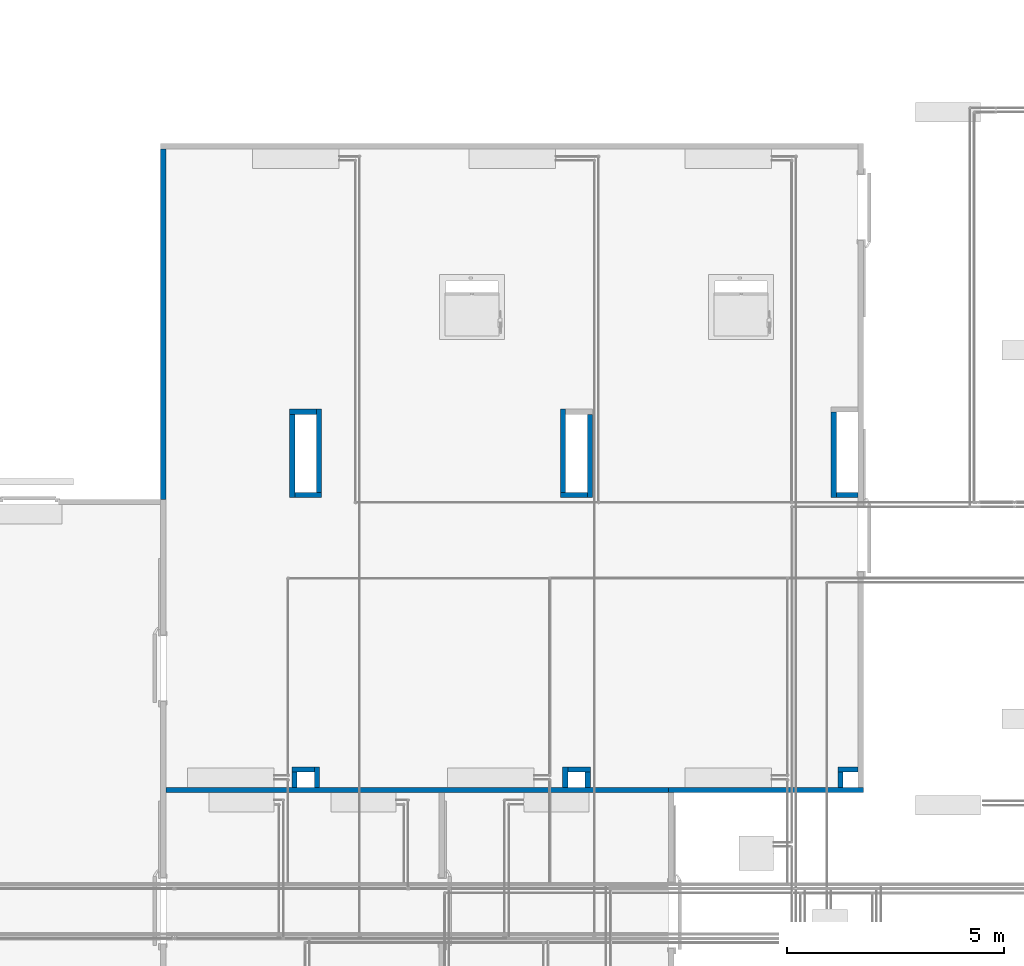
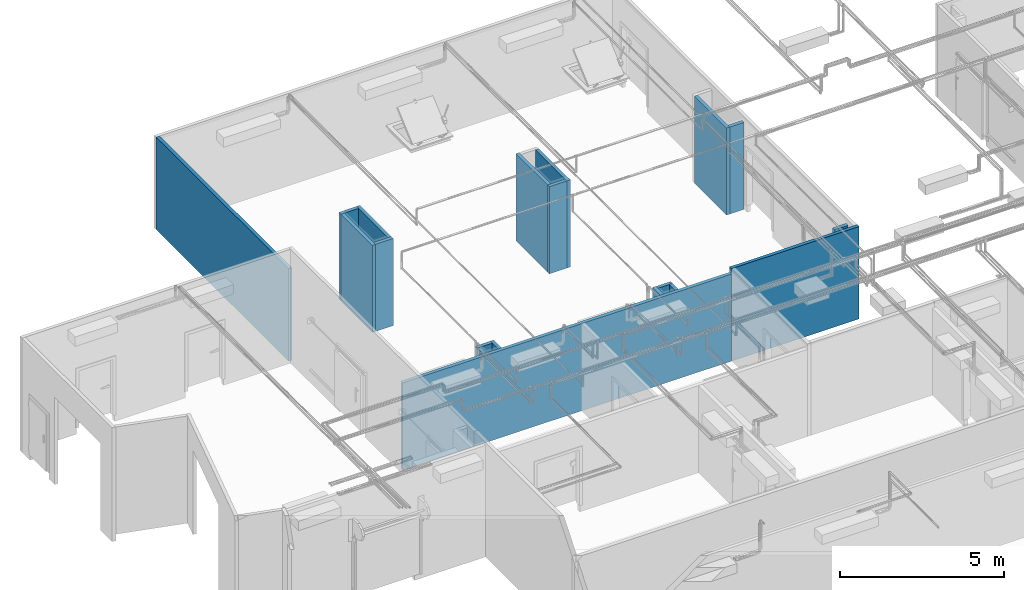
# One storey, part 27 of 652: 20 walls.
"""IFC2X3 building model written with IfcOpenShell, lengths in millimetres."""

from ifc_helpers import new_model, entity, si_unit, converted_unit, direction, frame, frame_2d, origin, place, context, subcontext, project, spatial, rectangle, extrude, material, layer, layer_set, layer_usage, type_object, element, save


model = new_model("IFC2X3")

# Units and contexts
model_context = context("Model", 3, precision=0.01, world=frame((0.0, 0.0, 308426.39999999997)), true_north=direction((6.123233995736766e-17, 1.0)))
plan_context = context("Plan", 3, precision=0.01, world=frame((0.0, 0.0, 308426.39999999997)), true_north=direction((6.123233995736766e-17, 1.0)))
body_context = subcontext(model_context, "Body", "Model", "MODEL_VIEW")
ifc_project = project(units=[si_unit("LENGTHUNIT", "METRE", prefix="MILLI"), si_unit("AREAUNIT", "SQUARE_METRE"), si_unit("VOLUMEUNIT", "CUBIC_METRE"), converted_unit("PLANEANGLEUNIT", "DEGREE", entity("IfcPlaneAngleMeasure", 0.017453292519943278), si_unit("PLANEANGLEUNIT", "RADIAN"), dimensions=[0, 0, 0, 0, 0, 0, 0])], contexts=[model_context, plan_context])

# Site, building, storey
site_placement = place(None, origin())
site = spatial("IfcSite", under=ifc_project, at=site_placement, Name="Default", CompositionType="ELEMENT")
building_placement = place(site_placement, origin())
building = spatial("IfcBuilding", under=site, at=building_placement, CompositionType="ELEMENT")
storey_placement = place(building_placement, frame((0.0, 0.0, 1730.6999999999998)))
storey = spatial("IfcBuildingStorey", under=building, at=storey_placement, Name="EG_Produktion_FFB", CompositionType="ELEMENT", Elevation=1730.6999999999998)

# Walls
ifc_material = material(Name="GPG_Paneelwand")
ifc_layer = layer(ifc_material, 120.0)
ifc_layer_set = layer_set([ifc_layer], Name="Basiswand:Kühlzellen Paneelwand 120")
ifc_layer_usage_1 = layer_usage(ifc_layer_set, "AXIS2", "NEGATIVE", 60.0)
wall_type = type_object("IfcWallType", Name="Basiswand:Kühlzellen Paneelwand 120", PredefinedType="STANDARD", material=ifc_layer_set)
wall_1_placement = place(storey_placement, frame((35375.0, 63277.90584055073, -250.0), z_axis=(0.0, 0.0, 1.0), x_axis=(-1.0, 0.0, 0.0)))
element("IfcWallStandardCase", 1, at=wall_1_placement, inside=storey, type_object=wall_type, material=ifc_layer_usage_1, Name="Basiswand:Kühlzellen Paneelwand 120", ObjectType="Basiswand:Kühlzellen Paneelwand 120", context=body_context, shape_type="SweptSolid", body=[
    extrude(rectangle(XDim=4494.9999999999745, YDim=120.00000000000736, at=frame_2d((2247.4999999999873, 4.725109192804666e-13), x_axis=(-1.0, 0.0))), origin(), (0.0, 0.0, 1.0), 3449.9999999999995),
])
ifc_layer_usage_2 = layer_usage(ifc_layer_set, "AXIS2", "NEGATIVE", 60.0)
wall_2_placement = place(storey_placement, frame((29060.0, 70030.0, -250.0), z_axis=(0.0, 0.0, 1.0), x_axis=(0.0, 1.0, 0.0)))
element("IfcWallStandardCase", 2, at=wall_2_placement, inside=storey, type_object=wall_type, material=ifc_layer_usage_2, Name="Basiswand:Kühlzellen Paneelwand 120", ObjectType="Basiswand:Kühlzellen Paneelwand 120", context=body_context, shape_type="SweptSolid", body=[
    extrude(rectangle(XDim=1919.999999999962, YDim=119.9999999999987, at=frame_2d((959.999999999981, 0.0), x_axis=(-1.0, 0.0))), origin(), (0.0, 0.0, 1.0), 3249.9999999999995),
])
ifc_layer_usage_3 = layer_usage(ifc_layer_set, "AXIS2", "NEGATIVE", 60.0)
wall_3_placement = place(storey_placement, frame((28380.0, 70090.0, -250.0)))
element("IfcWallStandardCase", 3, at=wall_3_placement, inside=storey, type_object=wall_type, material=ifc_layer_usage_3, Name="Basiswand:Kühlzellen Paneelwand 120", ObjectType="Basiswand:Kühlzellen Paneelwand 120", context=body_context, shape_type="SweptSolid", body=[
    extrude(rectangle(XDim=620.0000000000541, YDim=120.00000000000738, at=frame_2d((310.00000000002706, -5.790923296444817e-13), x_axis=(-1.0, 0.0))), origin(), (0.0, 0.0, 1.0), 3249.9999999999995),
])
ifc_layer_usage_4 = layer_usage(ifc_layer_set, "AXIS2", "NEGATIVE", 60.0)
wall_4_placement = place(storey_placement, frame((28440.0, 72070.0, -250.0), z_axis=(0.0, 0.0, 1.0), x_axis=(0.0, -1.0, 0.0)))
element("IfcWallStandardCase", 4, at=wall_4_placement, inside=storey, type_object=wall_type, material=ifc_layer_usage_4, Name="Basiswand:Kühlzellen Paneelwand 120", ObjectType="Basiswand:Kühlzellen Paneelwand 120", context=body_context, shape_type="SweptSolid", body=[
    extrude(rectangle(XDim=1919.9999999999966, YDim=119.99999999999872, at=frame_2d((959.9999999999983, 1.3002932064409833e-12), x_axis=(-1.0, 0.0))), origin(), (0.0, 0.0, 1.0), 3249.9999999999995),
])
ifc_layer_usage_5 = layer_usage(ifc_layer_set, "AXIS2", "NEGATIVE", 60.0)
wall_5_placement = place(storey_placement, frame((22130.0, 72010.0, -250.0)))
element("IfcWallStandardCase", 5, at=wall_5_placement, inside=storey, type_object=wall_type, material=ifc_layer_usage_5, Name="Basiswand:Kühlzellen Paneelwand 120", ObjectType="Basiswand:Kühlzellen Paneelwand 120", context=body_context, shape_type="SweptSolid", body=[
    extrude(rectangle(XDim=619.999999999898, YDim=120.00000000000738, at=frame_2d((309.999999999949, 0.0), x_axis=(-1.0, 0.0))), origin(), (0.0, 0.0, 1.0), 3249.9999999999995),
])
ifc_layer_usage_6 = layer_usage(ifc_layer_set, "AXIS2", "NEGATIVE", 60.0)
wall_6_placement = place(storey_placement, frame((22190.0, 70030.0, -250.0), z_axis=(0.0, 0.0, 1.0), x_axis=(0.0, 1.0, 0.0)))
element("IfcWallStandardCase", 6, at=wall_6_placement, inside=storey, type_object=wall_type, material=ifc_layer_usage_6, Name="Basiswand:Kühlzellen Paneelwand 120", ObjectType="Basiswand:Kühlzellen Paneelwand 120", context=body_context, shape_type="SweptSolid", body=[
    extrude(rectangle(XDim=1919.9999999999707, YDim=119.9999999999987, at=frame_2d((959.9999999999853, 0.0), x_axis=(-1.0, 0.0))), origin(), (0.0, 0.0, 1.0), 3249.9999999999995),
])
ifc_layer_usage_7 = layer_usage(ifc_layer_set, "AXIS2", "NEGATIVE", 60.0)
wall_7_placement = place(storey_placement, frame((22870.0, 70090.0, -250.0), z_axis=(0.0, 0.0, 1.0), x_axis=(-1.0, 0.0, 0.0)))
element("IfcWallStandardCase", 7, at=wall_7_placement, inside=storey, type_object=wall_type, material=ifc_layer_usage_7, Name="Basiswand:Kühlzellen Paneelwand 120", ObjectType="Basiswand:Kühlzellen Paneelwand 120", context=body_context, shape_type="SweptSolid", body=[
    extrude(rectangle(XDim=620.0000000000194, YDim=120.00000000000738, at=frame_2d((310.0000000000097, -1.865174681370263e-12), x_axis=(-1.0, 0.0))), origin(), (0.0, 0.0, 1.0), 3249.9999999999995),
])
ifc_layer_usage_8 = layer_usage(ifc_layer_set, "AXIS2", "NEGATIVE", 60.0)
wall_8_placement = place(storey_placement, frame((22810.0, 72070.0, -250.0), z_axis=(0.0, 0.0, 1.0), x_axis=(0.0, -1.0, 0.0)))
element("IfcWallStandardCase", 8, at=wall_8_placement, inside=storey, type_object=wall_type, material=ifc_layer_usage_8, Name="Basiswand:Kühlzellen Paneelwand 120", ObjectType="Basiswand:Kühlzellen Paneelwand 120", context=body_context, shape_type="SweptSolid", body=[
    extrude(rectangle(XDim=1920.0000000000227, YDim=119.99999999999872, at=frame_2d((960.0000000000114, -1.2967404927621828e-12), x_axis=(-1.0, 0.0))), origin(), (0.0, 0.0, 1.0), 3249.9999999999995),
])
ifc_layer_usage_9 = layer_usage(ifc_layer_set, "AXIS2", "NEGATIVE", 60.0)
wall_9_placement = place(storey_placement, frame((34690.0, 70030.0, -250.0), z_axis=(0.0, 0.0, 1.0), x_axis=(0.0, 1.0, 0.0)))
element("IfcWallStandardCase", 9, at=wall_9_placement, inside=storey, type_object=wall_type, material=ifc_layer_usage_9, Name="Basiswand:Kühlzellen Paneelwand 120", ObjectType="Basiswand:Kühlzellen Paneelwand 120", context=body_context, shape_type="SweptSolid", body=[
    extrude(rectangle(XDim=1969.9999999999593, YDim=119.9999999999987, at=frame_2d((984.9999999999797, 0.0), x_axis=(-1.0, 0.0))), origin(), (0.0, 0.0, 1.0), 3249.9999999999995),
])
ifc_layer_usage_10 = layer_usage(ifc_layer_set, "AXIS2", "NEGATIVE", 60.0)
wall_10_placement = place(storey_placement, frame((35255.0, 70090.0, -250.0), z_axis=(0.0, 0.0, 1.0), x_axis=(-1.0, 0.0, 0.0)))
element("IfcWallStandardCase", 10, at=wall_10_placement, inside=storey, type_object=wall_type, material=ifc_layer_usage_10, Name="Basiswand:Kühlzellen Paneelwand 120", ObjectType="Basiswand:Kühlzellen Paneelwand 120", context=body_context, shape_type="SweptSolid", body=[
    extrude(rectangle(XDim=504.99999999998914, YDim=120.00000000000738, at=frame_2d((252.49999999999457, 1.4210854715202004e-12), x_axis=(-1.0, 0.0))), origin(), (0.0, 0.0, 1.0), 3249.9999999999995),
])
ifc_layer_usage_11 = layer_usage(ifc_layer_set, "AXIS2", "NEGATIVE", 60.0)
wall_11_placement = place(storey_placement, frame((19210.0, 69985.10319626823, -250.0), z_axis=(0.0, 0.0, 1.0), x_axis=(0.0, 1.0, 0.0)))
element("IfcWallStandardCase", 11, at=wall_11_placement, inside=storey, type_object=wall_type, material=ifc_layer_usage_11, Name="Basiswand:Kühlzellen Paneelwand 120", ObjectType="Basiswand:Kühlzellen Paneelwand 120", context=body_context, shape_type="SweptSolid", body=[
    extrude(rectangle(XDim=8094.896803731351, YDim=119.9999999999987, at=frame_2d((4047.4484018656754, 0.0), x_axis=(-1.0, 0.0))), origin(), (0.0, 0.0, 1.0), 3449.9999999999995),
])
ifc_layer_usage_12 = layer_usage(ifc_layer_set, "AXIS2", "NEGATIVE", 60.0)
wall_12_placement = place(storey_placement, frame((30880.0, 63277.90584055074, -250.0), z_axis=(0.0, 0.0, 1.0), x_axis=(-1.0, 0.0, 0.0)))
element("IfcWallStandardCase", 12, at=wall_12_placement, inside=storey, type_object=wall_type, material=ifc_layer_usage_12, Name="Basiswand:Kühlzellen Paneelwand 120", ObjectType="Basiswand:Kühlzellen Paneelwand 120", context=body_context, shape_type="SweptSolid", body=[
    extrude(rectangle(XDim=11610.000000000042, YDim=120.00000000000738, at=frame_2d((5805.000000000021, -5.790923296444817e-13), x_axis=(-1.0, 0.0))), origin(), (0.0, 0.0, 1.0), 3249.9999999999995),
])
ifc_layer_usage_13 = layer_usage(ifc_layer_set, "AXIS2", "NEGATIVE", 60.0)
wall_13_placement = place(storey_placement, frame((29070.0, 63747.90584055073, -250.0), z_axis=(0.0, 0.0, 1.0), x_axis=(-1.0, 0.0, 0.0)))
element("IfcWallStandardCase", 13, at=wall_13_placement, inside=storey, type_object=wall_type, material=ifc_layer_usage_13, Name="Basiswand:Kühlzellen Paneelwand 120", ObjectType="Basiswand:Kühlzellen Paneelwand 120", context=body_context, shape_type="SweptSolid", body=[
    extrude(rectangle(XDim=519.9999999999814, YDim=120.00000000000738, at=frame_2d((259.9999999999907, 0.0), x_axis=(-1.0, 0.0))), origin(), (0.0, 0.0, 1.0), 3249.9999999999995),
])
ifc_layer_usage_14 = layer_usage(ifc_layer_set, "AXIS2", "NEGATIVE", 60.0)
wall_14_placement = place(storey_placement, frame((29010.0, 63337.905840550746, -250.0), z_axis=(0.0, 0.0, 1.0), x_axis=(0.0, 1.0, 0.0)))
element("IfcWallStandardCase", 14, at=wall_14_placement, inside=storey, type_object=wall_type, material=ifc_layer_usage_14, Name="Basiswand:Kühlzellen Paneelwand 120", ObjectType="Basiswand:Kühlzellen Paneelwand 120", context=body_context, shape_type="SweptSolid", body=[
    extrude(rectangle(XDim=349.99999999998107, YDim=119.9999999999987, at=frame_2d((174.99999999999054, 0.0), x_axis=(-1.0, 0.0))), origin(), (0.0, 0.0, 1.0), 3249.9999999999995),
])
ifc_layer_usage_15 = layer_usage(ifc_layer_set, "AXIS2", "NEGATIVE", 60.0)
wall_15_placement = place(storey_placement, frame((28490.0, 63807.905840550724, -250.0), z_axis=(0.0, 0.0, 1.0), x_axis=(0.0, -1.0, 0.0)))
element("IfcWallStandardCase", 15, at=wall_15_placement, inside=storey, type_object=wall_type, material=ifc_layer_usage_15, Name="Basiswand:Kühlzellen Paneelwand 120", ObjectType="Basiswand:Kühlzellen Paneelwand 120", context=body_context, shape_type="SweptSolid", body=[
    extrude(rectangle(XDim=469.9999999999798, YDim=119.9999999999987, at=frame_2d((234.9999999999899, 5.790923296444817e-13), x_axis=(-1.0, 0.0))), origin(), (0.0, 0.0, 1.0), 3249.9999999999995),
])
ifc_layer_usage_16 = layer_usage(ifc_layer_set, "AXIS2", "NEGATIVE", 60.0)
wall_16_placement = place(storey_placement, frame((22180.0, 63747.90584055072, -250.0)))
element("IfcWallStandardCase", 16, at=wall_16_placement, inside=storey, type_object=wall_type, material=ifc_layer_usage_16, Name="Basiswand:Kühlzellen Paneelwand 120", ObjectType="Basiswand:Kühlzellen Paneelwand 120", context=body_context, shape_type="SweptSolid", body=[
    extrude(rectangle(XDim=520.0000000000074, YDim=120.00000000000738, at=frame_2d((260.0000000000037, 0.0), x_axis=(-1.0, 0.0))), origin(), (0.0, 0.0, 1.0), 3249.9999999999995),
])
ifc_layer_usage_17 = layer_usage(ifc_layer_set, "AXIS2", "NEGATIVE", 60.0)
wall_17_placement = place(storey_placement, frame((22240.0, 63337.90584055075, -250.0), z_axis=(0.0, 0.0, 1.0), x_axis=(0.0, 1.0, 0.0)))
element("IfcWallStandardCase", 17, at=wall_17_placement, inside=storey, type_object=wall_type, material=ifc_layer_usage_17, Name="Basiswand:Kühlzellen Paneelwand 120", ObjectType="Basiswand:Kühlzellen Paneelwand 120", context=body_context, shape_type="SweptSolid", body=[
    extrude(rectangle(XDim=349.99999999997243, YDim=119.9999999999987, at=frame_2d((174.99999999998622, 0.0), x_axis=(-1.0, 0.0))), origin(), (0.0, 0.0, 1.0), 3249.9999999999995),
])
ifc_layer_usage_18 = layer_usage(ifc_layer_set, "AXIS2", "NEGATIVE", 60.0)
wall_18_placement = place(storey_placement, frame((22760.0, 63807.905840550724, -250.0), z_axis=(0.0, 0.0, 1.0), x_axis=(0.0, -1.0, 0.0)))
element("IfcWallStandardCase", 18, at=wall_18_placement, inside=storey, type_object=wall_type, material=ifc_layer_usage_18, Name="Basiswand:Kühlzellen Paneelwand 120", ObjectType="Basiswand:Kühlzellen Paneelwand 120", context=body_context, shape_type="SweptSolid", body=[
    extrude(rectangle(XDim=469.9999999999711, YDim=119.9999999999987, at=frame_2d((234.99999999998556, -5.790923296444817e-13), x_axis=(-1.0, 0.0))), origin(), (0.0, 0.0, 1.0), 3249.9999999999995),
])
ifc_layer_usage_19 = layer_usage(ifc_layer_set, "AXIS2", "NEGATIVE", 60.0)
wall_19_placement = place(storey_placement, frame((34785.0, 63747.90584055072, -250.0)))
element("IfcWallStandardCase", 19, at=wall_19_placement, inside=storey, type_object=wall_type, material=ifc_layer_usage_19, Name="Basiswand:Kühlzellen Paneelwand 120", ObjectType="Basiswand:Kühlzellen Paneelwand 120", context=body_context, shape_type="SweptSolid", body=[
    extrude(rectangle(XDim=470.0000000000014, YDim=120.00000000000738, at=frame_2d((235.0000000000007, 0.0), x_axis=(-1.0, 0.0))), origin(), (0.0, 0.0, 1.0), 3249.9999999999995),
])
ifc_layer_usage_20 = layer_usage(ifc_layer_set, "AXIS2", "NEGATIVE", 60.0)
wall_20_placement = place(storey_placement, frame((34845.0, 63337.905840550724, -250.0), z_axis=(0.0, 0.0, 1.0), x_axis=(0.0, 1.0, 0.0)))
element("IfcWallStandardCase", 20, at=wall_20_placement, inside=storey, type_object=wall_type, material=ifc_layer_usage_20, Name="Basiswand:Kühlzellen Paneelwand 120", ObjectType="Basiswand:Kühlzellen Paneelwand 120", context=body_context, shape_type="SweptSolid", body=[
    extrude(rectangle(XDim=349.9999999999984, YDim=119.9999999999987, at=frame_2d((174.9999999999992, 0.0), x_axis=(-1.0, 0.0))), origin(), (0.0, 0.0, 1.0), 3249.9999999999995),
])

save(model, "model.ifc")
